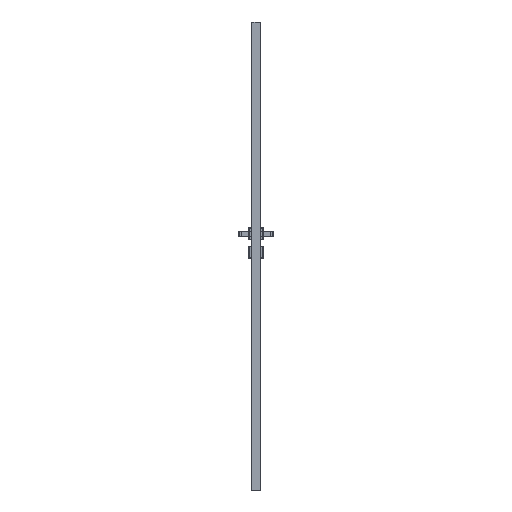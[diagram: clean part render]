
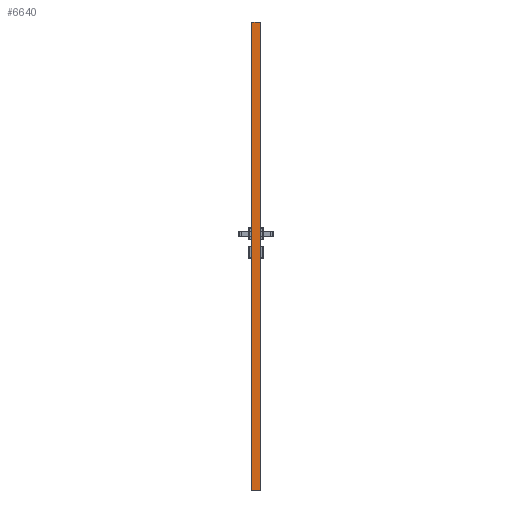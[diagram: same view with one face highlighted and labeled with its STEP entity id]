
A CAD part, left-side view. The second image highlights one B-rep face of the part: STEP entity #6640.
In plain terms, the highlighted planar face has unit normal (-1, 0, 0).
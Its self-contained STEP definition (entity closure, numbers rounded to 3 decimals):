
#6640=ADVANCED_FACE('',(#10632),#8804,.F.);
#8804=PLANE('',#49423);
#10632=FACE_OUTER_BOUND('',#13343,.T.);
#13343=EDGE_LOOP('',(#19011,#19012,#19013,#19014));
#19011=ORIENTED_EDGE('',*,*,#35859,.T.);
#19012=ORIENTED_EDGE('',*,*,#35860,.T.);
#19013=ORIENTED_EDGE('',*,*,#35861,.T.);
#19014=ORIENTED_EDGE('',*,*,#35862,.T.);
#30551=VERTEX_POINT('',#77706);
#30552=VERTEX_POINT('',#77707);
#30553=VERTEX_POINT('',#77709);
#30554=VERTEX_POINT('',#77711);
#35859=EDGE_CURVE('',#30551,#30552,#41917,.T.);
#35860=EDGE_CURVE('',#30552,#30553,#41918,.T.);
#35861=EDGE_CURVE('',#30553,#30554,#41919,.T.);
#35862=EDGE_CURVE('',#30554,#30551,#41920,.T.);
#41917=LINE('',#77705,#45492);
#41918=LINE('',#77708,#45493);
#41919=LINE('',#77710,#45494);
#41920=LINE('',#77712,#45495);
#45492=VECTOR('',#56832,1.);
#45493=VECTOR('',#56833,1.);
#45494=VECTOR('',#56834,1.);
#45495=VECTOR('',#56835,1.);
#49423=AXIS2_PLACEMENT_3D('',#77713,#56836,#56837);
#56832=DIRECTION('',(0.,0.,1.));
#56833=DIRECTION('',(0.,1.,0.));
#56834=DIRECTION('',(0.,0.,-1.));
#56835=DIRECTION('',(0.,-1.,0.));
#56836=DIRECTION('',(1.,0.,0.));
#56837=DIRECTION('',(0.,1.,0.));
#77705=CARTESIAN_POINT('',(-309.,-38.35,0.));
#77706=CARTESIAN_POINT('',(-309.,-38.35,0.));
#77707=CARTESIAN_POINT('',(-309.,-38.35,2017.01));
#77708=CARTESIAN_POINT('',(-309.,0.,2017.01));
#77709=CARTESIAN_POINT('',(-309.,-1.65,2017.01));
#77710=CARTESIAN_POINT('',(-309.,-1.65,0.));
#77711=CARTESIAN_POINT('',(-309.,-1.65,0.));
#77712=CARTESIAN_POINT('',(-309.,-38.35,0.));
#77713=CARTESIAN_POINT('',(-309.,-38.35,0.));
